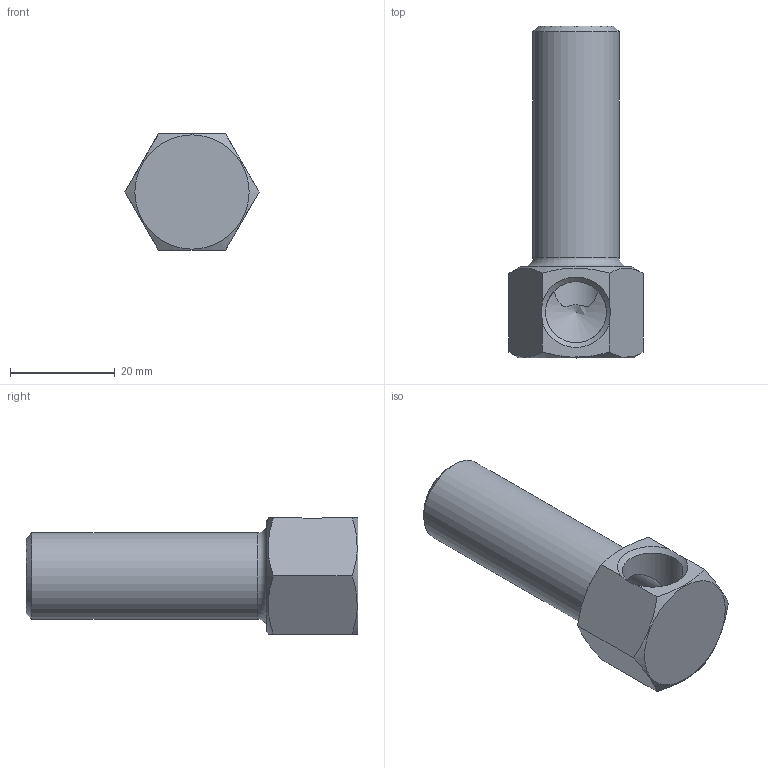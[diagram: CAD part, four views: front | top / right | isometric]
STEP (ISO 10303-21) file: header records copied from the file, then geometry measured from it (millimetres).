
FILE_DESCRIPTION(/* description */ (''),/* implementation_level */ '2;1');
FILE_NAME(/* name */ 'C:/Users/drich/Desktop/1438B-2-1_2 v1.step',/* time_stamp */ '2019-12-29T15:27:55-06:00',/* author */ (''),/* organization */ (''),/* preprocessor_version */ 'ST-DEVELOPER v18',/* originating_system */ 'Autodesk Translation Framework v8.12.0.6',/* authorisation */ '');
FILE_SCHEMA (('AUTOMOTIVE_DESIGN { 1 0 10303 214 3 1 1 }'));
Length unit declared in the file: inch
Products named in the file (1): 1438B-2-1_2
Bounding box: 25.66 x 63.5 x 22.23 mm (x, y, z)
Volume: 10033.8 mm3; surface area: 6667.8 mm2
Topology: 1 solids, 1 shells, 23 faces, 62 edges, 40 vertices
Faces by surface type: plane 10, cone 8, cylinder 4, torus 1
Full cylindrical faces by diameter (mm): 11.668 x1, 11.887 x1, 16.537 x1
Entity records: 821 total; most frequent: CARTESIAN_POINT 247, ORIENTED_EDGE 122, DIRECTION 104, EDGE_CURVE 61, AXIS2_PLACEMENT_3D 43, VERTEX_POINT 40, EDGE_LOOP 25, FACE_OUTER_BOUND 23
